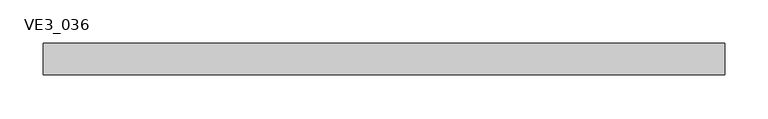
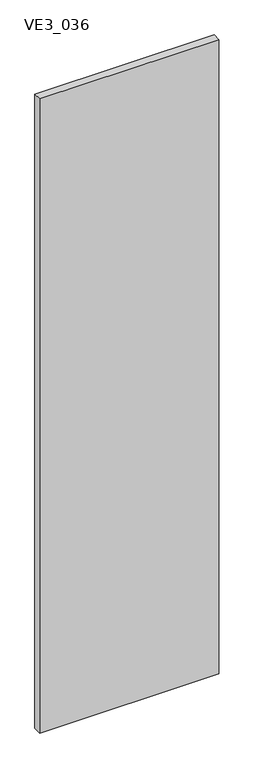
"""IFC4 building model written with IfcOpenShell, lengths in millimetres: plate geometry, TRP_CP_ARC_PF_RE_SE : VE3_036."""

from ifc_helpers import new_model, si_unit, frame, origin, place, context, project, spatial, polyline, outline, extrude, source, transform, mapped, element, save


def ve3_036_5d8ee60f(model_context):
    return source(origin(), model_context, "Body", "SweptSolid", [
        extrude(outline(polyline([(391.831687, 18.0), (391.831687, -18.0), (-391.831687, -18.0), (-391.831687, 18.0), (391.831687, 18.0)])), frame((0.0, 0.0, -3.1739529), z_axis=(0.0, 0.0, 1.0), x_axis=(1.0, 0.0, 0.0)), (0.0, 0.0, 1.0), 2933.1739529),
    ])


if __name__ == "__main__":
    model = new_model("IFC4")
    model_context = context("Model", 3, world=origin())
    ifc_project = project(units=[si_unit("LENGTHUNIT", "METRE", prefix="MILLI")], contexts=[model_context])
    site = spatial("IfcSite", under=ifc_project)
    building = spatial("IfcBuilding", under=site)
    placement = place(None, origin())
    ve3_036_shape = ve3_036_5d8ee60f(model_context)
    element("IfcPlate", 1, ObjectType="TRP_CP_ARC_PF_RE_SE : VE3_036", at=placement, inside=building, context=model_context, shape_type="MappedRepresentation", body=[
        mapped(ve3_036_shape, transform((0.0, 0.0, 0.0), x_axis=(1.0, 0.0, 0.0), y_axis=(0.0, 1.0, 0.0), z_axis=(0.0, 0.0, 1.0))),
    ])
    save(model, "model.ifc")
